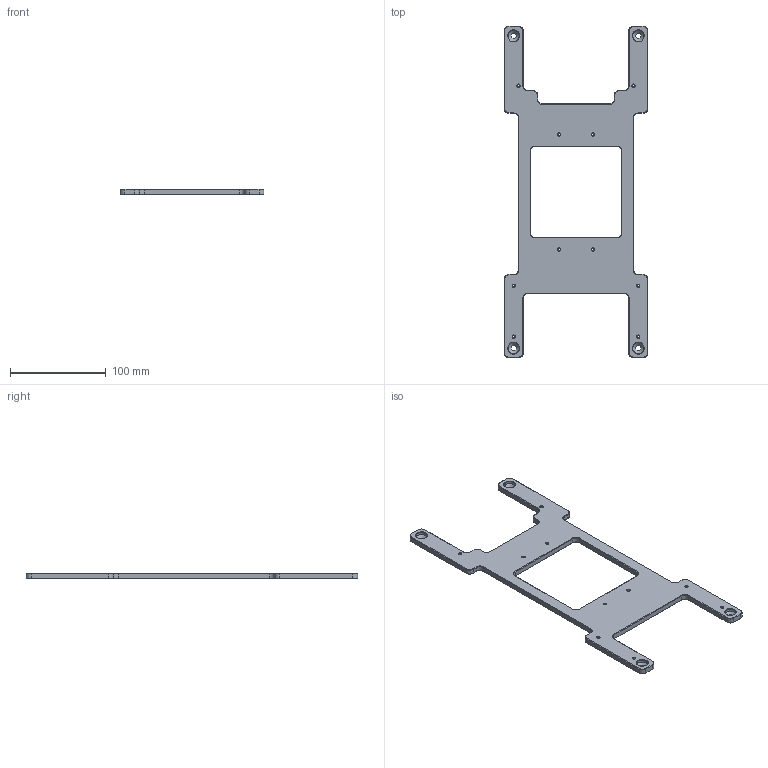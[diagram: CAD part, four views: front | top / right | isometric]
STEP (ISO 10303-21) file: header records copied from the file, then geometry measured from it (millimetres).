
FILE_DESCRIPTION(/* description */ (''),/* implementation_level */ '2;1');
FILE_NAME(/* name */ 'CWC-SE0001-P04_Sensing Baseplate.stp',/* time_stamp */ '2026-04-28T16:07:39+02:00',/* author */ (''),/* organization */ (''),/* preprocessor_version */ 'ST-DEVELOPER v18.1',/* originating_system */ 'SIEMENS PLM Software NX 1988',/* authorisation */ '');
FILE_SCHEMA (('AUTOMOTIVE_DESIGN { 1 0 10303 214 3 1 1 1 }'));
Length unit declared in the file: millimetre
Products named in the file (1): anto6558201A7erv
Bounding box: 150 x 346 x 6 mm (x, y, z)
Volume: 129148.4 mm3; surface area: 53613.4 mm2
Topology: 1 solids, 1 shells, 216 faces, 502 edges, 288 vertices
Faces by surface type: cone 88, plane 86, cylinder 42
Full cylindrical faces by diameter (mm): 2.5 x10, 11.47 x4
Entity records: 5824 total; most frequent: DIRECTION 1058, CARTESIAN_POINT 953, ORIENTED_EDGE 904, EDGE_CURVE 452, AXIS2_PLACEMENT_3D 389, EDGE_LOOP 292, VERTEX_POINT 284, LINE 280
